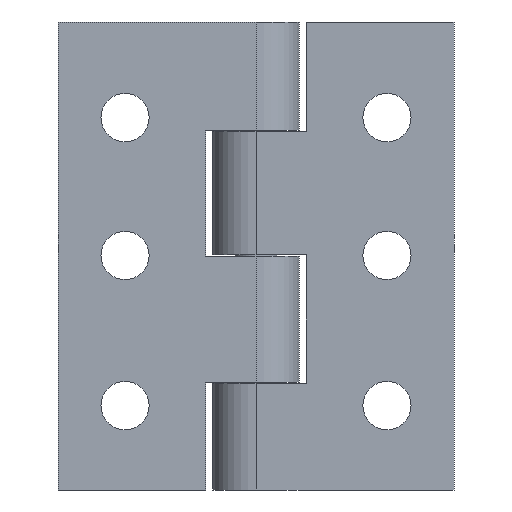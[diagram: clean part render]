
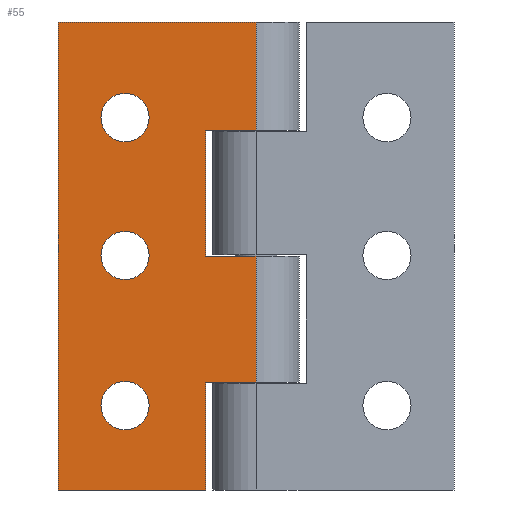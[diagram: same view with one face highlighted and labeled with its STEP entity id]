
A CAD part, front view. The second image highlights one B-rep face of the part: STEP entity #55.
In plain terms, the highlighted planar face has unit normal (0, -1, 0).
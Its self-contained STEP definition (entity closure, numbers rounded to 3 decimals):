
#1 = EDGE_LOOP ( 'NONE', ( #2044, #1635 ) ) ;
#35 = FACE_BOUND ( 'NONE', #2144, .T. ) ;
#51 = CARTESIAN_POINT ( 'NONE',  ( -18.187, 0., 3.419 ) ) ;
#52 = ORIENTED_EDGE ( 'NONE', *, *, #2071, .T. ) ;
#55 = ADVANCED_FACE ( 'NONE', ( #1019, #1538, #35, #868 ), #1400, .F. ) ;
#61 = CARTESIAN_POINT ( 'NONE',  ( -7., 0., 32.5 ) ) ;
#69 = DIRECTION ( 'NONE',  ( 0., 1., 0. ) ) ;
#80 = DIRECTION ( 'NONE',  ( -1., 0., 0. ) ) ;
#84 = CARTESIAN_POINT ( 'NONE',  ( -18.187, 0., 15.879 ) ) ;
#96 = CIRCLE ( 'NONE', #1271, 3.35 ) ;
#107 = VERTEX_POINT ( 'NONE', #1900 ) ;
#109 = ORIENTED_EDGE ( 'NONE', *, *, #1154, .T. ) ;
#119 = VERTEX_POINT ( 'NONE', #2091 ) ;
#130 = EDGE_CURVE ( 'NONE', #1465, #1045, #96, .T. ) ;
#134 = CARTESIAN_POINT ( 'NONE',  ( 0., 0., -32.5 ) ) ;
#141 = LINE ( 'NONE', #1687, #1704 ) ;
#143 = VERTEX_POINT ( 'NONE', #1719 ) ;
#145 = EDGE_CURVE ( 'NONE', #605, #791, #2058, .T. ) ;
#173 = ORIENTED_EDGE ( 'NONE', *, *, #892, .T. ) ;
#194 = ORIENTED_EDGE ( 'NONE', *, *, #1736, .T. ) ;
#195 = CIRCLE ( 'NONE', #1480, 3.35 ) ;
#237 = VECTOR ( 'NONE', #80, 1000. ) ;
#238 = VECTOR ( 'NONE', #1920, 1000. ) ;
#254 = ORIENTED_EDGE ( 'NONE', *, *, #145, .T. ) ;
#285 = DIRECTION ( 'NONE',  ( 0., 1., 0. ) ) ;
#324 = CARTESIAN_POINT ( 'NONE',  ( 0., 0., 0. ) ) ;
#387 = ORIENTED_EDGE ( 'NONE', *, *, #2106, .F. ) ;
#432 = LINE ( 'NONE', #1124, #2125 ) ;
#433 = DIRECTION ( 'NONE',  ( 0., 0., 1. ) ) ;
#461 = DIRECTION ( 'NONE',  ( 0., 0., -1. ) ) ;
#472 = ORIENTED_EDGE ( 'NONE', *, *, #1383, .T. ) ;
#486 = CARTESIAN_POINT ( 'NONE',  ( -18.187, 0., -17.421 ) ) ;
#491 = VERTEX_POINT ( 'NONE', #2120 ) ;
#545 = CARTESIAN_POINT ( 'NONE',  ( -18.187, 0., 19.229 ) ) ;
#565 = DIRECTION ( 'NONE',  ( 0., 1., 0. ) ) ;
#566 = DIRECTION ( 'NONE',  ( 0., 1., 0. ) ) ;
#575 = DIRECTION ( 'NONE',  ( 0., 0., 1. ) ) ;
#592 = AXIS2_PLACEMENT_3D ( 'NONE', #1229, #565, #575 ) ;
#599 = DIRECTION ( 'NONE',  ( 0., 1., 0. ) ) ;
#605 = VERTEX_POINT ( 'NONE', #1526 ) ;
#692 = VECTOR ( 'NONE', #2156, 1000. ) ;
#695 = EDGE_CURVE ( 'NONE', #744, #119, #141, .T. ) ;
#722 = LINE ( 'NONE', #61, #1800 ) ;
#744 = VERTEX_POINT ( 'NONE', #1669 ) ;
#751 = DIRECTION ( 'NONE',  ( 1., 0., 0. ) ) ;
#760 = DIRECTION ( 'NONE',  ( 0., 0., -1. ) ) ;
#770 = CIRCLE ( 'NONE', #2093, 3.35 ) ;
#791 = VERTEX_POINT ( 'NONE', #51 ) ;
#820 = VERTEX_POINT ( 'NONE', #84 ) ;
#868 = FACE_OUTER_BOUND ( 'NONE', #1254, .T. ) ;
#892 = EDGE_CURVE ( 'NONE', #791, #605, #195, .T. ) ;
#902 = CARTESIAN_POINT ( 'NONE',  ( 0., 0., -17.5 ) ) ;
#913 = VECTOR ( 'NONE', #760, 1000. ) ;
#935 = CARTESIAN_POINT ( 'NONE',  ( -18.187, 0., 0.069 ) ) ;
#939 = CARTESIAN_POINT ( 'NONE',  ( -18.187, 0., -20.771 ) ) ;
#947 = ORIENTED_EDGE ( 'NONE', *, *, #1425, .F. ) ;
#952 = LINE ( 'NONE', #1281, #692 ) ;
#965 = LINE ( 'NONE', #324, #237 ) ;
#973 = LINE ( 'NONE', #134, #2061 ) ;
#978 = AXIS2_PLACEMENT_3D ( 'NONE', #545, #566, #1760 ) ;
#1019 = FACE_BOUND ( 'NONE', #1, .T. ) ;
#1033 = CARTESIAN_POINT ( 'NONE',  ( -18.187, 0., -24.121 ) ) ;
#1045 = VERTEX_POINT ( 'NONE', #486 ) ;
#1078 = DIRECTION ( 'NONE',  ( -1., 0., 0. ) ) ;
#1089 = CARTESIAN_POINT ( 'NONE',  ( -18.187, 0., -20.771 ) ) ;
#1124 = CARTESIAN_POINT ( 'NONE',  ( 0., 0., 32.5 ) ) ;
#1134 = CARTESIAN_POINT ( 'NONE',  ( -7., 0., 32.5 ) ) ;
#1138 = CARTESIAN_POINT ( 'NONE',  ( 0., 0., 0. ) ) ;
#1144 = CARTESIAN_POINT ( 'NONE',  ( -27.5, 0., 32.5 ) ) ;
#1154 = EDGE_CURVE ( 'NONE', #143, #820, #1231, .T. ) ;
#1163 = CARTESIAN_POINT ( 'NONE',  ( -7., 0., 0. ) ) ;
#1229 = CARTESIAN_POINT ( 'NONE',  ( -18.187, 0., 0.069 ) ) ;
#1231 = CIRCLE ( 'NONE', #978, 3.35 ) ;
#1254 = EDGE_LOOP ( 'NONE', ( #472, #1776, #387, #1623, #2083, #194, #947, #1919, #1277, #2186 ) ) ;
#1271 = AXIS2_PLACEMENT_3D ( 'NONE', #1089, #69, #1422 ) ;
#1277 = ORIENTED_EDGE ( 'NONE', *, *, #1285, .T. ) ;
#1281 = CARTESIAN_POINT ( 'NONE',  ( 0., 0., 32.5 ) ) ;
#1285 = EDGE_CURVE ( 'NONE', #744, #2017, #1600, .T. ) ;
#1289 = DIRECTION ( 'NONE',  ( 0., 0., 1. ) ) ;
#1297 = EDGE_CURVE ( 'NONE', #1045, #1465, #1584, .T. ) ;
#1299 = LINE ( 'NONE', #1134, #1304 ) ;
#1304 = VECTOR ( 'NONE', #1612, 1000. ) ;
#1315 = DIRECTION ( 'NONE',  ( 1., 0., 0. ) ) ;
#1328 = CARTESIAN_POINT ( 'NONE',  ( -18.187, 0., 19.229 ) ) ;
#1341 = LINE ( 'NONE', #2023, #1798 ) ;
#1383 = EDGE_CURVE ( 'NONE', #107, #491, #1299, .T. ) ;
#1399 = CARTESIAN_POINT ( 'NONE',  ( 0., 0., -17.5 ) ) ;
#1400 = PLANE ( 'NONE',  #1799 ) ;
#1403 = DIRECTION ( 'NONE',  ( 0., 0., 1. ) ) ;
#1422 = DIRECTION ( 'NONE',  ( 0., 0., 1. ) ) ;
#1425 = EDGE_CURVE ( 'NONE', #119, #2112, #952, .T. ) ;
#1437 = CARTESIAN_POINT ( 'NONE',  ( -27.5, 0., -32.5 ) ) ;
#1465 = VERTEX_POINT ( 'NONE', #1033 ) ;
#1480 = AXIS2_PLACEMENT_3D ( 'NONE', #935, #599, #433 ) ;
#1481 = CARTESIAN_POINT ( 'NONE',  ( -7., 0., 17.5 ) ) ;
#1515 = DIRECTION ( 'NONE',  ( 1., 0., 0. ) ) ;
#1526 = CARTESIAN_POINT ( 'NONE',  ( -18.187, 0., -3.281 ) ) ;
#1538 = FACE_BOUND ( 'NONE', #1554, .T. ) ;
#1554 = EDGE_LOOP ( 'NONE', ( #173, #254 ) ) ;
#1564 = VERTEX_POINT ( 'NONE', #1399 ) ;
#1575 = CARTESIAN_POINT ( 'NONE',  ( 0., 0., 32.5 ) ) ;
#1583 = DIRECTION ( 'NONE',  ( 0., 1., 0. ) ) ;
#1584 = CIRCLE ( 'NONE', #2121, 3.35 ) ;
#1588 = LINE ( 'NONE', #902, #238 ) ;
#1600 = LINE ( 'NONE', #1144, #913 ) ;
#1609 = DIRECTION ( 'NONE',  ( 0., 1., 0. ) ) ;
#1612 = DIRECTION ( 'NONE',  ( 0., 0., 1. ) ) ;
#1623 = ORIENTED_EDGE ( 'NONE', *, *, #1670, .T. ) ;
#1633 = VERTEX_POINT ( 'NONE', #1481 ) ;
#1635 = ORIENTED_EDGE ( 'NONE', *, *, #130, .T. ) ;
#1669 = CARTESIAN_POINT ( 'NONE',  ( -27.5, 0., 32.5 ) ) ;
#1670 = EDGE_CURVE ( 'NONE', #1682, #1711, #965, .T. ) ;
#1682 = VERTEX_POINT ( 'NONE', #1138 ) ;
#1687 = CARTESIAN_POINT ( 'NONE',  ( 0., 0., 32.5 ) ) ;
#1704 = VECTOR ( 'NONE', #1515, 1000. ) ;
#1711 = VERTEX_POINT ( 'NONE', #1163 ) ;
#1719 = CARTESIAN_POINT ( 'NONE',  ( -18.187, 0., 22.579 ) ) ;
#1736 = EDGE_CURVE ( 'NONE', #1633, #2112, #1341, .T. ) ;
#1760 = DIRECTION ( 'NONE',  ( 0., 0., 1. ) ) ;
#1776 = ORIENTED_EDGE ( 'NONE', *, *, #1946, .T. ) ;
#1798 = VECTOR ( 'NONE', #751, 1000. ) ;
#1799 = AXIS2_PLACEMENT_3D ( 'NONE', #1575, #1583, #1078 ) ;
#1800 = VECTOR ( 'NONE', #1403, 1000. ) ;
#1832 = CARTESIAN_POINT ( 'NONE',  ( 0., 0., 17.5 ) ) ;
#1900 = CARTESIAN_POINT ( 'NONE',  ( -7., 0., -32.5 ) ) ;
#1919 = ORIENTED_EDGE ( 'NONE', *, *, #695, .F. ) ;
#1920 = DIRECTION ( 'NONE',  ( 1., 0., 0. ) ) ;
#1940 = EDGE_CURVE ( 'NONE', #1711, #1633, #722, .T. ) ;
#1946 = EDGE_CURVE ( 'NONE', #491, #1564, #1588, .T. ) ;
#1997 = DIRECTION ( 'NONE',  ( 0., 0., 1. ) ) ;
#2017 = VERTEX_POINT ( 'NONE', #1437 ) ;
#2023 = CARTESIAN_POINT ( 'NONE',  ( 0., 0., 17.5 ) ) ;
#2044 = ORIENTED_EDGE ( 'NONE', *, *, #1297, .T. ) ;
#2058 = CIRCLE ( 'NONE', #592, 3.35 ) ;
#2061 = VECTOR ( 'NONE', #1315, 1000. ) ;
#2071 = EDGE_CURVE ( 'NONE', #820, #143, #770, .T. ) ;
#2083 = ORIENTED_EDGE ( 'NONE', *, *, #1940, .T. ) ;
#2091 = CARTESIAN_POINT ( 'NONE',  ( 0., 0., 32.5 ) ) ;
#2093 = AXIS2_PLACEMENT_3D ( 'NONE', #1328, #285, #1997 ) ;
#2106 = EDGE_CURVE ( 'NONE', #1682, #1564, #432, .T. ) ;
#2112 = VERTEX_POINT ( 'NONE', #1832 ) ;
#2118 = EDGE_CURVE ( 'NONE', #2017, #107, #973, .T. ) ;
#2120 = CARTESIAN_POINT ( 'NONE',  ( -7., 0., -17.5 ) ) ;
#2121 = AXIS2_PLACEMENT_3D ( 'NONE', #939, #1609, #1289 ) ;
#2125 = VECTOR ( 'NONE', #461, 1000. ) ;
#2144 = EDGE_LOOP ( 'NONE', ( #109, #52 ) ) ;
#2156 = DIRECTION ( 'NONE',  ( 0., 0., -1. ) ) ;
#2186 = ORIENTED_EDGE ( 'NONE', *, *, #2118, .T. ) ;
